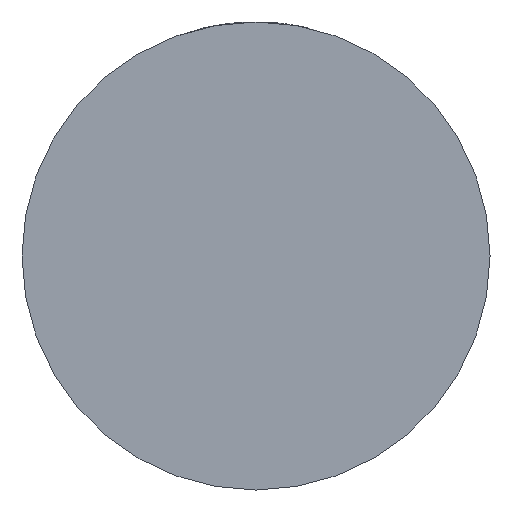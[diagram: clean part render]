
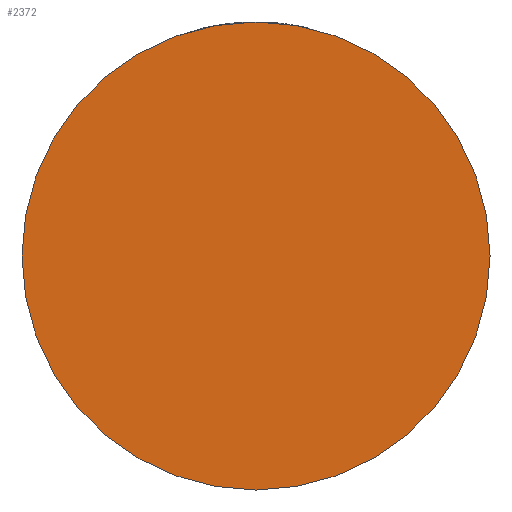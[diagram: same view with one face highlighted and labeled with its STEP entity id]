
A CAD part, front view. The second image highlights one B-rep face of the part: STEP entity #2372.
In plain terms, the highlighted planar face has unit normal (0, -1, 0).
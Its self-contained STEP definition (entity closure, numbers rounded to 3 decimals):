
#185 = CIRCLE ( 'NONE', #769, 40. ) ;
#769 = AXIS2_PLACEMENT_3D ( 'NONE', #1741, #4061, #1365 ) ;
#773 = VERTEX_POINT ( 'NONE', #2840 ) ;
#866 = EDGE_CURVE ( 'NONE', #773, #1002, #3448, .T. ) ;
#939 = CARTESIAN_POINT ( 'NONE',  ( 0., -28., 0. ) ) ;
#989 = ORIENTED_EDGE ( 'NONE', *, *, #4204, .T. ) ;
#1002 = VERTEX_POINT ( 'NONE', #3816 ) ;
#1274 = PLANE ( 'NONE',  #3169 ) ;
#1317 = DIRECTION ( 'NONE',  ( 0., -1., 0. ) ) ;
#1365 = DIRECTION ( 'NONE',  ( 1., 0., 0. ) ) ;
#1542 = CARTESIAN_POINT ( 'NONE',  ( 0., -28., 0. ) ) ;
#1608 = FACE_OUTER_BOUND ( 'NONE', #3731, .T. ) ;
#1741 = CARTESIAN_POINT ( 'NONE',  ( 0., -28., 0. ) ) ;
#2372 = ADVANCED_FACE ( 'NONE', ( #1608 ), #1274, .T. ) ;
#2840 = CARTESIAN_POINT ( 'NONE',  ( 40., -28., 0. ) ) ;
#2903 = DIRECTION ( 'NONE',  ( 0., -1., 0. ) ) ;
#3169 = AXIS2_PLACEMENT_3D ( 'NONE', #1542, #2903, #3923 ) ;
#3396 = DIRECTION ( 'NONE',  ( 1., 0., 0. ) ) ;
#3448 = CIRCLE ( 'NONE', #4157, 40. ) ;
#3714 = ORIENTED_EDGE ( 'NONE', *, *, #866, .T. ) ;
#3731 = EDGE_LOOP ( 'NONE', ( #989, #3714 ) ) ;
#3816 = CARTESIAN_POINT ( 'NONE',  ( -40., -28., 0. ) ) ;
#3923 = DIRECTION ( 'NONE',  ( 1., 0., 0. ) ) ;
#4061 = DIRECTION ( 'NONE',  ( 0., -1., 0. ) ) ;
#4157 = AXIS2_PLACEMENT_3D ( 'NONE', #939, #1317, #3396 ) ;
#4204 = EDGE_CURVE ( 'NONE', #1002, #773, #185, .T. ) ;
